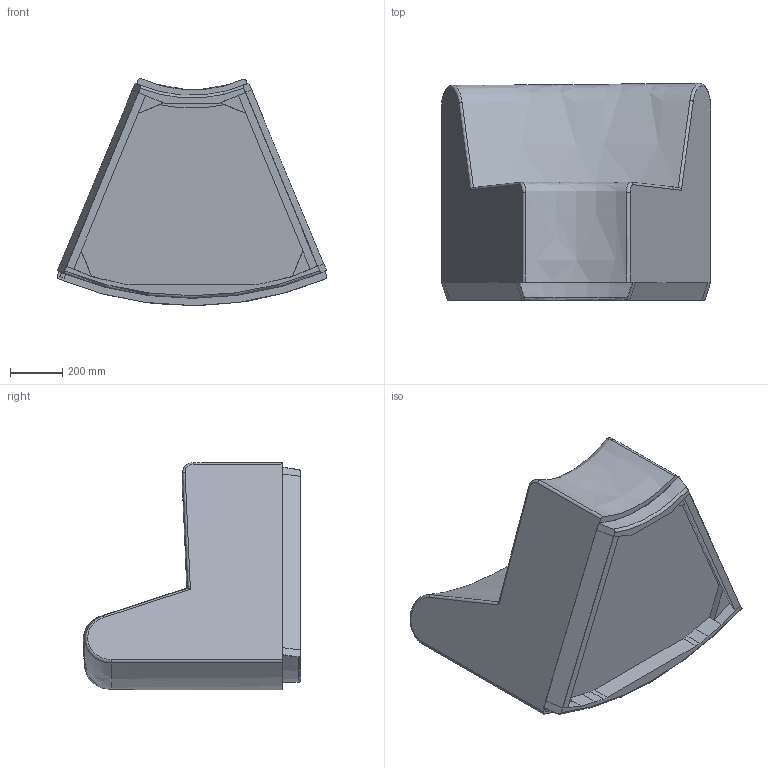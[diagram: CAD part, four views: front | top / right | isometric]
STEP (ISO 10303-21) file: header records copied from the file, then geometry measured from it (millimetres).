
FILE_DESCRIPTION(/* description */ (''),/* implementation_level */ '2;1');
FILE_NAME(/* name */ '1OH-0005 - Ohio Curved Chair - Narrow Front - STEP (Simplified).stp',/* time_stamp */ '2025-11-12T16:14:27Z',/* author */ ('craig.ferris'),/* organization */ (''),/* preprocessor_version */ 'ST-DEVELOPER v20',/* originating_system */ 'Autodesk Inventor 2025',/* authorisation */ '');
FILE_SCHEMA (('AUTOMOTIVE_DESIGN { 1 0 10303 214 3 1 1 }'));
Length unit declared in the file: millimetre
Products named in the file (1): 1OH-0005 - Ohio Curved Chair - Narrow Front (Simplified)_
Bounding box: 1032.21 x 831.27 x 869.2 mm (x, y, z)
Volume: 319665065.6 mm3; surface area: 3572484.9 mm2
Topology: 1 solids, 1 shells, 103 faces, 265 edges, 159 vertices
Faces by surface type: plane 53, bspline 24, cylinder 18, torus 4, sphere 4
Entity records: 7630 total; most frequent: CARTESIAN_POINT 5196, ORIENTED_EDGE 520, DIRECTION 437, EDGE_CURVE 260, VERTEX_POINT 159, AXIS2_PLACEMENT_3D 146, LINE 145, VECTOR 145
